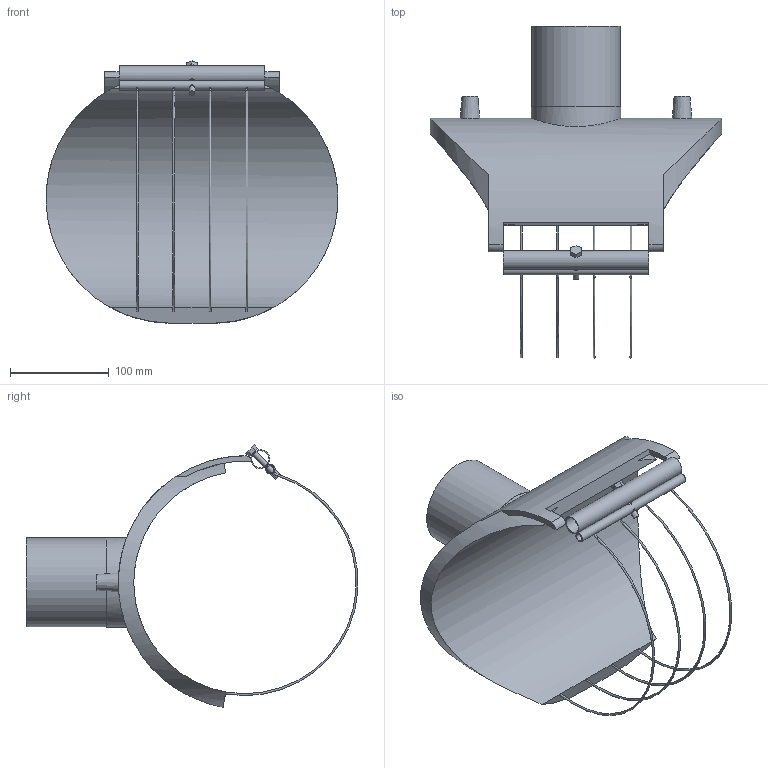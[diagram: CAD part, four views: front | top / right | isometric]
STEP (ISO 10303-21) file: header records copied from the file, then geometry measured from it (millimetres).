
FILE_DESCRIPTION(/* description */ ('Plasson Branch Saddle 225x90'),/* implementation_level */ '2;1');
FILE_NAME(/* name */ 'C:\Dropbox\KIMPROJECTS-Inventor 2019\99-16-3568-Processing\ElectroFusion Fittings\4958X4\4958X4225090T.stp',/* time_stamp */ '2025-05-07T12:15:31+03:00',/* author */ ('KIM'),/* organization */ (''),/* preprocessor_version */ 'ST-DEVELOPER v18.1',/* originating_system */ 'Autodesk Inventor 2021',/* authorisation */ '');
FILE_SCHEMA (('AUTOMOTIVE_DESIGN { 1 0 10303 214 3 1 1 }'));
Length unit declared in the file: millimetre
Products named in the file (1): 4958X4225090T
Bounding box: 295 x 335.73 x 265.38 mm (x, y, z)
Volume: 1473349.4 mm3; surface area: 270311.6 mm2
Topology: 1 solids, 1 shells, 63 faces, 178 edges, 115 vertices
Faces by surface type: cylinder 28, plane 25, torus 8, cone 2
Full cylindrical faces by diameter (mm): 6 x3, 7.6 x1, 8 x1, 16 x1, 17.2 x1, 73 x1, 90 x1, 91 x1
Entity records: 2957 total; most frequent: CARTESIAN_POINT 1262, ORIENTED_EDGE 360, DIRECTION 331, EDGE_CURVE 180, AXIS2_PLACEMENT_3D 135, VERTEX_POINT 115, EDGE_LOOP 81, CIRCLE 67
